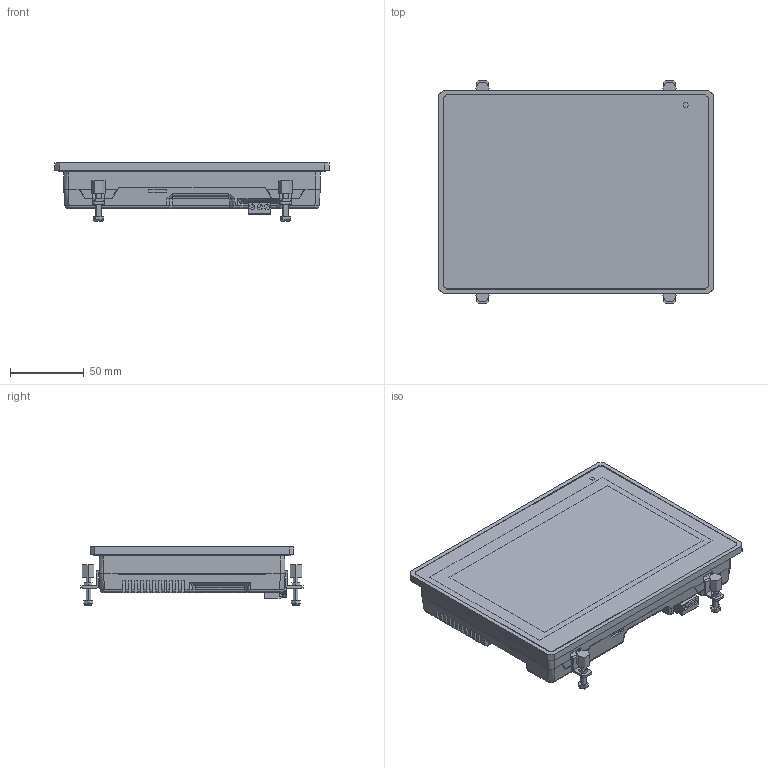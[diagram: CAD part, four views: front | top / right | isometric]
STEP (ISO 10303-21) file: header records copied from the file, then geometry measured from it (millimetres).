
FILE_DESCRIPTION (( 'STEP AP214' ), '1' );
FILE_NAME ('WP4070A(AP).STEP', '2024-05-24T16:13:24', ( '' ), ( '' ), 'SwSTEP 2.0', 'SolidWorks 2019', '' );
FILE_SCHEMA (( 'AUTOMOTIVE_DESIGN' ));
Length unit declared in the file: millimetre
Products named in the file (1): WP4070A(AP)
Bounding box: 186.35 x 151 x 39.5 mm (x, y, z)
Topology: 17 solids, 24 shells, 2074 faces, 6046 edges, 4049 vertices
Faces by surface type: plane 1396, cylinder 558, bspline 70, sphere 28, cone 14, torus 8
Full cylindrical faces by diameter (mm): 0.2 x2
Entity records: 70875 total; most frequent: CARTESIAN_POINT 17462, ORIENTED_EDGE 12060, DIRECTION 10145, EDGE_CURVE 6030, VERTEX_POINT 4047, VECTOR 3947, LINE 3947, AXIS2_PLACEMENT_3D 3099
